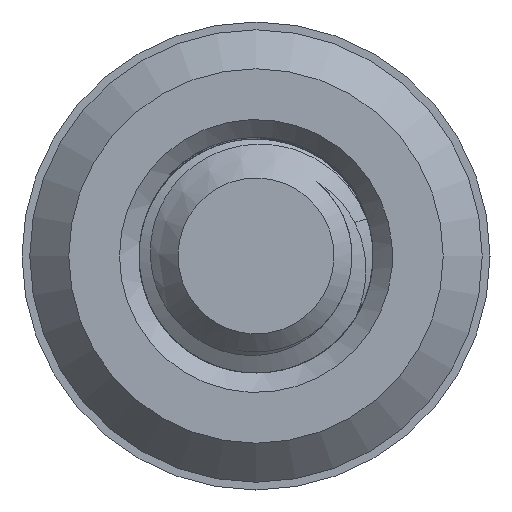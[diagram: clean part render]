
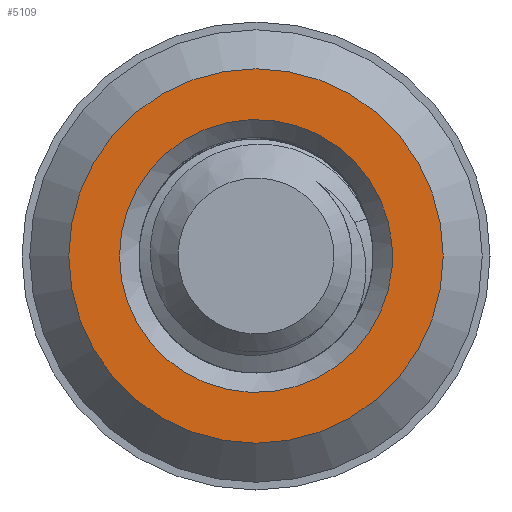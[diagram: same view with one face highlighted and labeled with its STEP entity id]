
A CAD part, front view. The second image highlights one B-rep face of the part: STEP entity #5109.
In plain terms, the highlighted planar face has unit normal (0, -1, 0).
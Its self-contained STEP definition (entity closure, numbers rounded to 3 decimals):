
#100 = EDGE_CURVE ( 'NONE', #7048, #7048, #4434, .T. ) ;
#417 = ORIENTED_EDGE ( 'NONE', *, *, #100, .T. ) ;
#816 = CARTESIAN_POINT ( 'NONE',  ( -2.569, -13.448, 25.4 ) ) ;
#1198 = FACE_BOUND ( 'NONE', #4306, .T. ) ;
#1552 = AXIS2_PLACEMENT_3D ( 'NONE', #816, #3389, #8923 ) ;
#1633 = AXIS2_PLACEMENT_3D ( 'NONE', #8325, #8452, #5271 ) ;
#2008 = EDGE_CURVE ( 'NONE', #6576, #6576, #5772, .T. ) ;
#2238 = CARTESIAN_POINT ( 'NONE',  ( -2.569, -13.448, 25.4 ) ) ;
#3091 = ORIENTED_EDGE ( 'NONE', *, *, #2008, .T. ) ;
#3389 = DIRECTION ( 'NONE',  ( 0., -1., 0. ) ) ;
#4306 = EDGE_LOOP ( 'NONE', ( #417 ) ) ;
#4338 = CARTESIAN_POINT ( 'NONE',  ( -4.319, -13.448, 25.4 ) ) ;
#4410 = CARTESIAN_POINT ( 'NONE',  ( -4.969, -13.448, 25.4 ) ) ;
#4434 = CIRCLE ( 'NONE', #5216, 1.75 ) ;
#4598 = FACE_OUTER_BOUND ( 'NONE', #9815, .T. ) ;
#5109 = ADVANCED_FACE ( 'NONE', ( #1198, #4598 ), #9913, .F. ) ;
#5216 = AXIS2_PLACEMENT_3D ( 'NONE', #2238, #10098, #7748 ) ;
#5271 = DIRECTION ( 'NONE',  ( -1., 0., 0. ) ) ;
#5772 = CIRCLE ( 'NONE', #1552, 2.4 ) ;
#6576 = VERTEX_POINT ( 'NONE', #4410 ) ;
#7048 = VERTEX_POINT ( 'NONE', #4338 ) ;
#7748 = DIRECTION ( 'NONE',  ( -1., 0., 0. ) ) ;
#8325 = CARTESIAN_POINT ( 'NONE',  ( -5.469, -13.448, 25.4 ) ) ;
#8452 = DIRECTION ( 'NONE',  ( 0., 1., 0. ) ) ;
#8923 = DIRECTION ( 'NONE',  ( -1., 0., 0. ) ) ;
#9815 = EDGE_LOOP ( 'NONE', ( #3091 ) ) ;
#9913 = PLANE ( 'NONE',  #1633 ) ;
#10098 = DIRECTION ( 'NONE',  ( 0., 1., 0. ) ) ;
